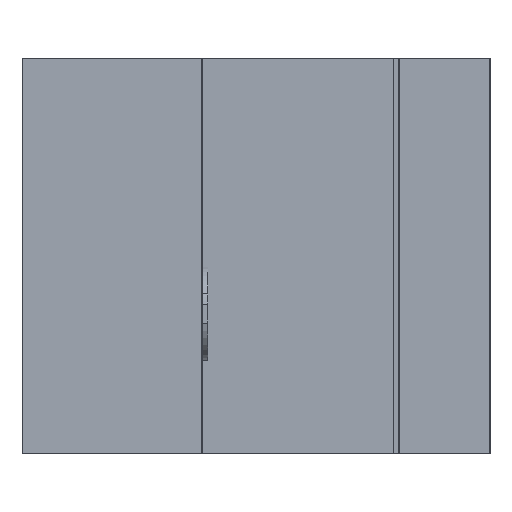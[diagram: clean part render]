
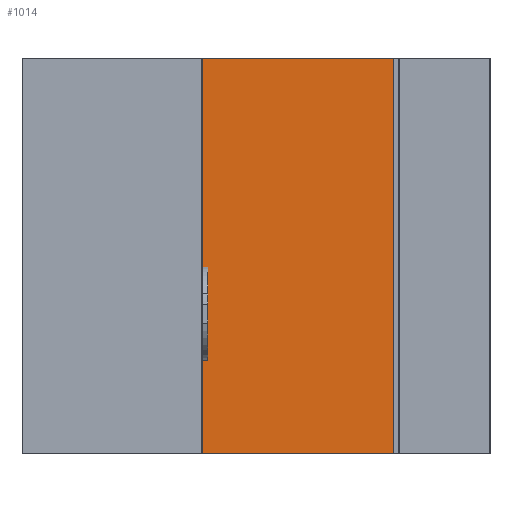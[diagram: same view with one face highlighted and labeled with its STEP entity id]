
A CAD part, front view. The second image highlights one B-rep face of the part: STEP entity #1014.
In plain terms, the highlighted planar face has unit normal (0, -1, 0).
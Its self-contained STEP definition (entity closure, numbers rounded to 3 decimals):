
#614 = VERTEX_POINT( '', #1802 );
#702 = EDGE_CURVE( '', #1484, #724, #1908, .T. );
#724 = VERTEX_POINT( '', #1930 );
#862 = VERTEX_POINT( '', #2079 );
#1014 = ADVANCED_FACE( '', ( #2252 ), #2253, .T. );
#1206 = EDGE_CURVE( '', #1484, #614, #2459, .T. );
#1310 = EDGE_CURVE( '', #614, #862, #2571, .T. );
#1484 = VERTEX_POINT( '', #2773 );
#1612 = EDGE_CURVE( '', #724, #862, #2917, .T. );
#1802 = CARTESIAN_POINT( '', ( 10.2, 16.95, 0. ) );
#1908 = LINE( '', #3268, #3269 );
#1930 = CARTESIAN_POINT( '', ( -10.2, 16.95, -41. ) );
#2079 = CARTESIAN_POINT( '', ( 10.2, 16.95, -41. ) );
#2252 = FACE_OUTER_BOUND( '', #3752, .T. );
#2253 = PLANE( '', #3753 );
#2459 = LINE( '', #4052, #4053 );
#2571 = LINE( '', #4209, #4210 );
#2773 = CARTESIAN_POINT( '', ( -10.2, 16.95, 0. ) );
#2917 = LINE( '', #4661, #4662 );
#3268 = CARTESIAN_POINT( '', ( -10.2, 16.95, 0. ) );
#3269 = VECTOR( '', #5059, 1. );
#3752 = EDGE_LOOP( '', ( #5425, #5426, #5427, #5428 ) );
#3753 = AXIS2_PLACEMENT_3D( '', #5429, #5430, #5431 );
#4052 = CARTESIAN_POINT( '', ( -10.2, 16.95, 0. ) );
#4053 = VECTOR( '', #5612, 1. );
#4209 = CARTESIAN_POINT( '', ( 10.2, 16.95, 0. ) );
#4210 = VECTOR( '', #5711, 1. );
#4661 = CARTESIAN_POINT( '', ( -10.2, 16.95, -41. ) );
#4662 = VECTOR( '', #6168, 1. );
#5059 = DIRECTION( '', ( 0., 0., -1. ) );
#5425 = ORIENTED_EDGE( '', *, *, #1612, .T. );
#5426 = ORIENTED_EDGE( '', *, *, #1310, .F. );
#5427 = ORIENTED_EDGE( '', *, *, #1206, .F. );
#5428 = ORIENTED_EDGE( '', *, *, #702, .T. );
#5429 = CARTESIAN_POINT( '', ( -10.2, 16.95, 0. ) );
#5430 = DIRECTION( '', ( 0., -1., 0. ) );
#5431 = DIRECTION( '', ( -1., 0., 0. ) );
#5612 = DIRECTION( '', ( 1., 0., 0. ) );
#5711 = DIRECTION( '', ( 0., 0., -1. ) );
#6168 = DIRECTION( '', ( 1., 0., 0. ) );
